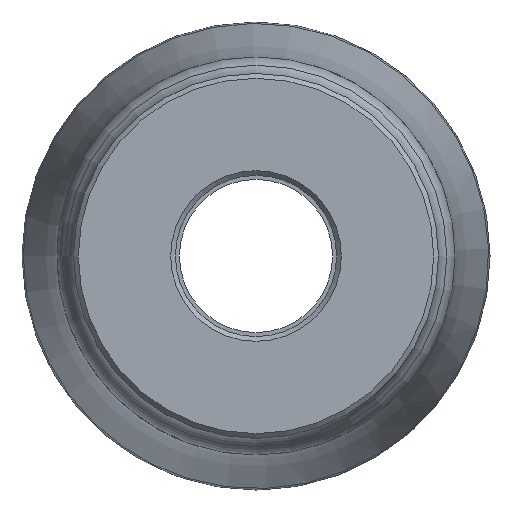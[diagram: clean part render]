
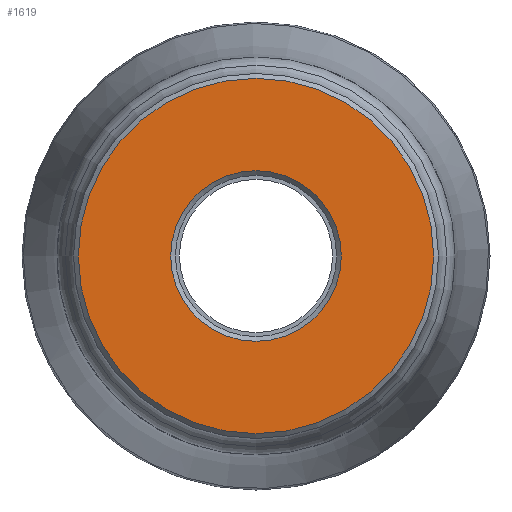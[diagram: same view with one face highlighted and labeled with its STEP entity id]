
A CAD part, left-side view. The second image highlights one B-rep face of the part: STEP entity #1619.
In plain terms, the highlighted planar face has unit normal (-1, 0, 0).
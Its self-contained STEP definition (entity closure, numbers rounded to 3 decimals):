
#29=FACE_BOUND('',#401,.T.);
#212=PLANE('',#1776);
#290=FACE_OUTER_BOUND('',#400,.T.);
#400=EDGE_LOOP('',(#1219));
#401=EDGE_LOOP('',(#1220));
#542=CIRCLE('',#1775,12.759);
#543=CIRCLE('',#1777,26.576);
#728=VERTEX_POINT('',#2906);
#729=VERTEX_POINT('',#2909);
#910=EDGE_CURVE('',#728,#728,#542,.T.);
#911=EDGE_CURVE('',#729,#729,#543,.T.);
#1219=ORIENTED_EDGE('',*,*,#911,.F.);
#1220=ORIENTED_EDGE('',*,*,#910,.F.);
#1619=ADVANCED_FACE('',(#290,#29),#212,.T.);
#1775=AXIS2_PLACEMENT_3D('',#2907,#2067,#2068);
#1776=AXIS2_PLACEMENT_3D('',#2908,#2069,#2070);
#1777=AXIS2_PLACEMENT_3D('',#2910,#2071,#2072);
#2067=DIRECTION('center_axis',(-1.,0.,0.));
#2068=DIRECTION('ref_axis',(0.,-1.,0.));
#2069=DIRECTION('center_axis',(-1.,0.,0.));
#2070=DIRECTION('ref_axis',(0.,0.,1.));
#2071=DIRECTION('center_axis',(1.,0.,0.));
#2072=DIRECTION('ref_axis',(0.,-1.,0.));
#2906=CARTESIAN_POINT('',(0.,12.759,0.));
#2907=CARTESIAN_POINT('Origin',(0.,0.,0.));
#2908=CARTESIAN_POINT('Origin',(0.,27.3,0.));
#2909=CARTESIAN_POINT('',(0.,26.576,0.));
#2910=CARTESIAN_POINT('Origin',(0.,0.,0.));
